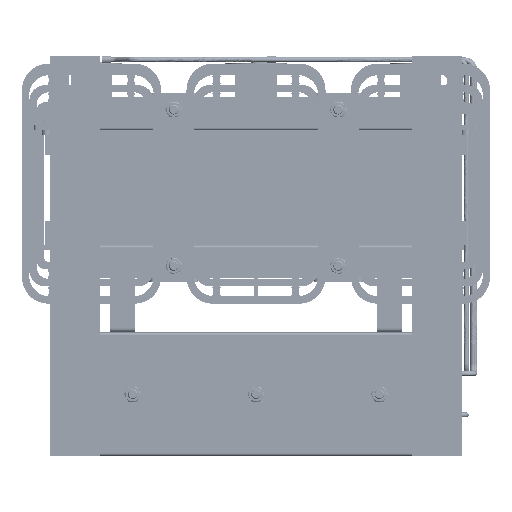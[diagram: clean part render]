
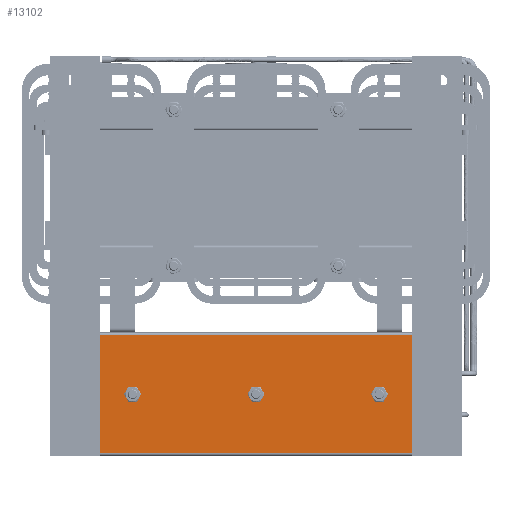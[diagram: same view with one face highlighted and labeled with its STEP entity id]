
A CAD part, front view. The second image highlights one B-rep face of the part: STEP entity #13102.
In plain terms, the highlighted planar face has unit normal (0, -1, 0).
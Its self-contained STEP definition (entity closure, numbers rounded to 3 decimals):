
#13102=ADVANCED_FACE('',(#25134,#25136,#25138,#25140,#25142,#25144,#25146,#25148),
#25150,.F.);
#25134=FACE_BOUND('',#25135,.T.);
#25135=EDGE_LOOP('',(#41403,#41404,#41405,#41406));
#25136=FACE_BOUND('',#25137,.T.);
#25137=EDGE_LOOP('',(#41407,#41408,#41409,#41410));
#25138=FACE_BOUND('',#25139,.T.);
#25139=EDGE_LOOP('',(#41411,#41412,#41413,#41414));
#25140=FACE_BOUND('',#25141,.T.);
#25141=EDGE_LOOP('',(#41415,#41416,#41417,#41418));
#25142=FACE_BOUND('',#25143,.T.);
#25143=EDGE_LOOP('',(#41419,#41420,#41421,#41422));
#25144=FACE_BOUND('',#25145,.T.);
#25145=EDGE_LOOP('',(#41423));
#25146=FACE_BOUND('',#25147,.T.);
#25147=EDGE_LOOP('',(#41424));
#25148=FACE_BOUND('',#25149,.T.);
#25149=EDGE_LOOP('',(#41425));
#25150=PLANE('',#25151);
#25151=AXIS2_PLACEMENT_3D('',#25152,#25153,#25154);
#25152=CARTESIAN_POINT('',(-75.,-60.,240.));
#25153=DIRECTION('',(0.,1.,0.));
#25154=DIRECTION('',(0.,0.,1.));
#41403=ORIENTED_EDGE('',*,*,#47412,.T.);
#41404=ORIENTED_EDGE('',*,*,#47552,.T.);
#41405=ORIENTED_EDGE('',*,*,#47394,.F.);
#41406=ORIENTED_EDGE('',*,*,#47553,.T.);
#41407=ORIENTED_EDGE('',*,*,#47554,.T.);
#41408=ORIENTED_EDGE('',*,*,#47369,.T.);
#41409=ORIENTED_EDGE('',*,*,#47555,.T.);
#41410=ORIENTED_EDGE('',*,*,#47556,.T.);
#41411=ORIENTED_EDGE('',*,*,#47557,.T.);
#41412=ORIENTED_EDGE('',*,*,#47558,.T.);
#41413=ORIENTED_EDGE('',*,*,#47559,.T.);
#41414=ORIENTED_EDGE('',*,*,#47373,.T.);
#41415=ORIENTED_EDGE('',*,*,#47560,.T.);
#41416=ORIENTED_EDGE('',*,*,#47561,.T.);
#41417=ORIENTED_EDGE('',*,*,#47562,.T.);
#41418=ORIENTED_EDGE('',*,*,#47563,.T.);
#41419=ORIENTED_EDGE('',*,*,#47564,.T.);
#41420=ORIENTED_EDGE('',*,*,#47565,.T.);
#41421=ORIENTED_EDGE('',*,*,#47566,.T.);
#41422=ORIENTED_EDGE('',*,*,#47567,.T.);
#41423=ORIENTED_EDGE('',*,*,#47375,.T.);
#41424=ORIENTED_EDGE('',*,*,#47377,.T.);
#41425=ORIENTED_EDGE('',*,*,#47379,.T.);
#47369=EDGE_CURVE('',#50963,#50968,#50970,.T.);
#47373=EDGE_CURVE('',#50971,#50976,#50978,.T.);
#47375=EDGE_CURVE('',#50981,#50981,#50982,.T.);
#47377=EDGE_CURVE('',#50985,#50985,#50986,.T.);
#47379=EDGE_CURVE('',#50989,#50989,#50990,.T.);
#47394=EDGE_CURVE('',#51019,#51020,#51021,.T.);
#47412=EDGE_CURVE('',#51056,#51054,#51057,.T.);
#47552=EDGE_CURVE('',#51054,#51020,#51329,.T.);
#47553=EDGE_CURVE('',#51019,#51056,#51330,.T.);
#47554=EDGE_CURVE('',#51331,#50963,#51332,.T.);
#47555=EDGE_CURVE('',#50968,#51333,#51334,.T.);
#47556=EDGE_CURVE('',#51333,#51331,#51335,.T.);
#47557=EDGE_CURVE('',#50976,#51336,#51337,.T.);
#47558=EDGE_CURVE('',#51336,#51338,#51339,.T.);
#47559=EDGE_CURVE('',#51338,#50971,#51340,.T.);
#47560=EDGE_CURVE('',#51341,#51342,#51343,.T.);
#47561=EDGE_CURVE('',#51342,#51344,#51345,.T.);
#47562=EDGE_CURVE('',#51344,#51346,#51347,.T.);
#47563=EDGE_CURVE('',#51346,#51341,#51348,.T.);
#47564=EDGE_CURVE('',#51349,#51350,#51351,.T.);
#47565=EDGE_CURVE('',#51350,#51352,#51353,.T.);
#47566=EDGE_CURVE('',#51352,#51354,#51355,.T.);
#47567=EDGE_CURVE('',#51354,#51349,#51356,.T.);
#50963=VERTEX_POINT('',#59170);
#50968=VERTEX_POINT('',#59180);
#50970=CIRCLE('',#59184,3.5);
#50971=VERTEX_POINT('',#59188);
#50976=VERTEX_POINT('',#59198);
#50978=CIRCLE('',#59202,3.5);
#50981=VERTEX_POINT('',#59211);
#50982=CIRCLE('',#59212,6.);
#50985=VERTEX_POINT('',#59221);
#50986=CIRCLE('',#59222,6.);
#50989=VERTEX_POINT('',#59231);
#50990=CIRCLE('',#59232,6.);
#51019=VERTEX_POINT('',#59306);
#51020=VERTEX_POINT('',#59307);
#51021=LINE('',#59308,#59309);
#51054=VERTEX_POINT('',#59383);
#51056=VERTEX_POINT('',#59388);
#51057=LINE('',#59389,#59390);
#51329=LINE('',#60008,#60009);
#51330=LINE('',#60011,#60012);
#51331=VERTEX_POINT('',#60014);
#51332=LINE('',#60015,#60016);
#51333=VERTEX_POINT('',#60018);
#51334=LINE('',#60019,#60020);
#51335=CIRCLE('',#60022,3.5);
#51336=VERTEX_POINT('',#60026);
#51337=LINE('',#60027,#60028);
#51338=VERTEX_POINT('',#60030);
#51339=CIRCLE('',#60031,3.5);
#51340=LINE('',#60035,#60036);
#51341=VERTEX_POINT('',#60038);
#51342=VERTEX_POINT('',#60039);
#51343=LINE('',#60040,#60041);
#51344=VERTEX_POINT('',#60043);
#51345=CIRCLE('',#60044,3.5);
#51346=VERTEX_POINT('',#60048);
#51347=LINE('',#60049,#60050);
#51348=CIRCLE('',#60052,3.5);
#51349=VERTEX_POINT('',#60056);
#51350=VERTEX_POINT('',#60057);
#51351=LINE('',#60058,#60059);
#51352=VERTEX_POINT('',#60061);
#51353=CIRCLE('',#60062,3.5);
#51354=VERTEX_POINT('',#60066);
#51355=LINE('',#60067,#60068);
#51356=CIRCLE('',#60070,3.5);
#59170=CARTESIAN_POINT('',(56.5,-60.,228.5));
#59180=CARTESIAN_POINT('',(63.5,-60.,228.5));
#59184=AXIS2_PLACEMENT_3D('',#59185,#59186,#59187);
#59185=CARTESIAN_POINT('',(60.,-60.,228.5));
#59186=DIRECTION('',(0.,1.,0.));
#59187=DIRECTION('',(-1.,0.,0.));
#59188=CARTESIAN_POINT('',(-63.5,-60.,-221.5));
#59198=CARTESIAN_POINT('',(-56.5,-60.,-221.5));
#59202=AXIS2_PLACEMENT_3D('',#59203,#59204,#59205);
#59203=CARTESIAN_POINT('',(-60.,-60.,-221.5));
#59204=DIRECTION('',(0.,1.,0.));
#59205=DIRECTION('',(-1.,0.,0.));
#59211=CARTESIAN_POINT('',(0.,-60.,156.));
#59212=AXIS2_PLACEMENT_3D('',#59213,#59214,#59215);
#59213=CARTESIAN_POINT('',(0.,-60.,150.));
#59214=DIRECTION('',(0.,1.,0.));
#59215=DIRECTION('',(0.,0.,-1.));
#59221=CARTESIAN_POINT('',(0.,-60.,6.));
#59222=AXIS2_PLACEMENT_3D('',#59223,#59224,#59225);
#59223=CARTESIAN_POINT('',(0.,-60.,0.));
#59224=DIRECTION('',(0.,1.,0.));
#59225=DIRECTION('',(0.,0.,-1.));
#59231=CARTESIAN_POINT('',(0.,-60.,-144.));
#59232=AXIS2_PLACEMENT_3D('',#59233,#59234,#59235);
#59233=CARTESIAN_POINT('',(0.,-60.,-150.));
#59234=DIRECTION('',(0.,1.,0.));
#59235=DIRECTION('',(0.,0.,-1.));
#59306=CARTESIAN_POINT('',(-72.,-60.,240.));
#59307=CARTESIAN_POINT('',(72.,-60.,240.));
#59308=CARTESIAN_POINT('',(-72.,-60.,240.));
#59309=VECTOR('',#59310,1.);
#59310=DIRECTION('',(1.,0.,0.));
#59383=CARTESIAN_POINT('',(72.,-60.,-240.));
#59388=CARTESIAN_POINT('',(-72.,-60.,-240.));
#59389=CARTESIAN_POINT('',(-72.,-60.,-240.));
#59390=VECTOR('',#59391,1.);
#59391=DIRECTION('',(1.,0.,0.));
#60008=CARTESIAN_POINT('',(72.,-60.,-240.));
#60009=VECTOR('',#60010,1.);
#60010=DIRECTION('',(0.,0.,1.));
#60011=CARTESIAN_POINT('',(-72.,-60.,240.));
#60012=VECTOR('',#60013,1.);
#60013=DIRECTION('',(0.,0.,-1.));
#60014=CARTESIAN_POINT('',(56.5,-60.,221.5));
#60015=CARTESIAN_POINT('',(56.5,-60.,221.5));
#60016=VECTOR('',#60017,1.);
#60017=DIRECTION('',(0.,0.,1.));
#60018=CARTESIAN_POINT('',(63.5,-60.,221.5));
#60019=CARTESIAN_POINT('',(63.5,-60.,228.5));
#60020=VECTOR('',#60021,1.);
#60021=DIRECTION('',(0.,0.,-1.));
#60022=AXIS2_PLACEMENT_3D('',#60023,#60024,#60025);
#60023=CARTESIAN_POINT('',(60.,-60.,221.5));
#60024=DIRECTION('',(0.,1.,0.));
#60025=DIRECTION('',(1.,0.,0.));
#60026=CARTESIAN_POINT('',(-56.5,-60.,-228.5));
#60027=CARTESIAN_POINT('',(-56.5,-60.,-221.5));
#60028=VECTOR('',#60029,1.);
#60029=DIRECTION('',(0.,0.,-1.));
#60030=CARTESIAN_POINT('',(-63.5,-60.,-228.5));
#60031=AXIS2_PLACEMENT_3D('',#60032,#60033,#60034);
#60032=CARTESIAN_POINT('',(-60.,-60.,-228.5));
#60033=DIRECTION('',(0.,1.,0.));
#60034=DIRECTION('',(1.,0.,0.));
#60035=CARTESIAN_POINT('',(-63.5,-60.,-228.5));
#60036=VECTOR('',#60037,1.);
#60037=DIRECTION('',(0.,0.,1.));
#60038=CARTESIAN_POINT('',(56.5,-60.,-221.5));
#60039=CARTESIAN_POINT('',(63.5,-60.,-221.5));
#60040=CARTESIAN_POINT('',(56.5,-60.,-221.5));
#60041=VECTOR('',#60042,1.);
#60042=DIRECTION('',(1.,0.,0.));
#60043=CARTESIAN_POINT('',(63.5,-60.,-228.5));
#60044=AXIS2_PLACEMENT_3D('',#60045,#60046,#60047);
#60045=CARTESIAN_POINT('',(63.5,-60.,-225.));
#60046=DIRECTION('',(0.,1.,0.));
#60047=DIRECTION('',(0.,0.,1.));
#60048=CARTESIAN_POINT('',(56.5,-60.,-228.5));
#60049=CARTESIAN_POINT('',(63.5,-60.,-228.5));
#60050=VECTOR('',#60051,1.);
#60051=DIRECTION('',(-1.,0.,0.));
#60052=AXIS2_PLACEMENT_3D('',#60053,#60054,#60055);
#60053=CARTESIAN_POINT('',(56.5,-60.,-225.));
#60054=DIRECTION('',(0.,1.,0.));
#60055=DIRECTION('',(0.,0.,-1.));
#60056=CARTESIAN_POINT('',(-63.5,-60.,228.5));
#60057=CARTESIAN_POINT('',(-56.5,-60.,228.5));
#60058=CARTESIAN_POINT('',(-63.5,-60.,228.5));
#60059=VECTOR('',#60060,1.);
#60060=DIRECTION('',(1.,0.,0.));
#60061=CARTESIAN_POINT('',(-56.5,-60.,221.5));
#60062=AXIS2_PLACEMENT_3D('',#60063,#60064,#60065);
#60063=CARTESIAN_POINT('',(-56.5,-60.,225.));
#60064=DIRECTION('',(0.,1.,0.));
#60065=DIRECTION('',(0.,0.,1.));
#60066=CARTESIAN_POINT('',(-63.5,-60.,221.5));
#60067=CARTESIAN_POINT('',(-56.5,-60.,221.5));
#60068=VECTOR('',#60069,1.);
#60069=DIRECTION('',(-1.,0.,0.));
#60070=AXIS2_PLACEMENT_3D('',#60071,#60072,#60073);
#60071=CARTESIAN_POINT('',(-63.5,-60.,225.));
#60072=DIRECTION('',(0.,1.,0.));
#60073=DIRECTION('',(0.,0.,-1.));
